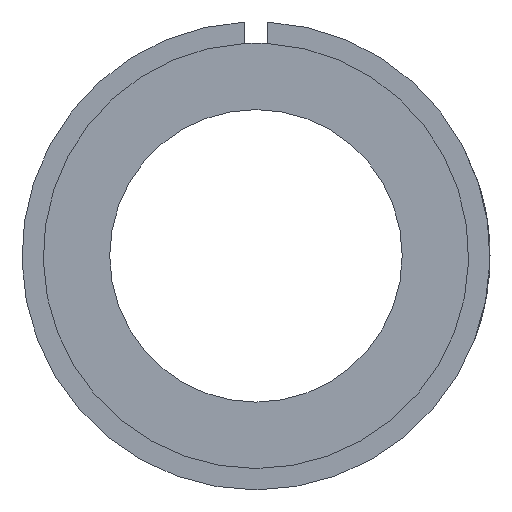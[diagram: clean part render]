
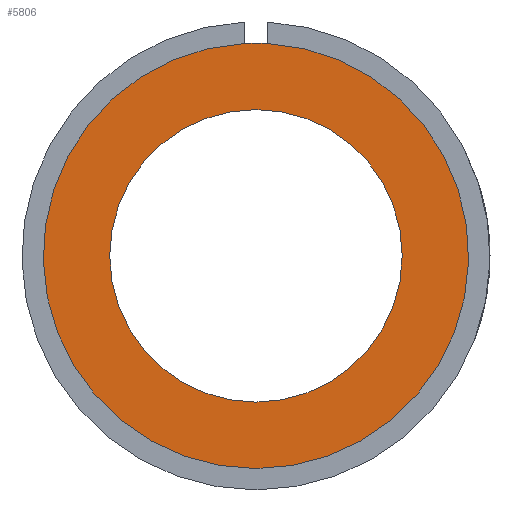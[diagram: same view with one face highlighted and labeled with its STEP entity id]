
A CAD part, left-side view. The second image highlights one B-rep face of the part: STEP entity #5806.
In plain terms, the highlighted planar face has unit normal (-1, 0, 0).
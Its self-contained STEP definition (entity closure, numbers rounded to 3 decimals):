
#131=PLANE('',#6254);
#1843=ORIENTED_EDGE('',*,*,#3596,.F.);
#1844=ORIENTED_EDGE('',*,*,#3597,.F.);
#1845=ORIENTED_EDGE('',*,*,#3561,.T.);
#3561=EDGE_CURVE('',#4444,#4444,#4842,.F.);
#3596=EDGE_CURVE('',#4467,#4468,#4855,.T.);
#3597=EDGE_CURVE('',#4468,#4467,#4856,.T.);
#4444=VERTEX_POINT('',#9090);
#4467=VERTEX_POINT('',#9161);
#4468=VERTEX_POINT('',#9162);
#4842=CIRCLE('',#6229,12.5);
#4855=CIRCLE('',#6255,18.177);
#4856=CIRCLE('',#6256,18.177);
#4990=EDGE_LOOP('',(#1843,#1844));
#4991=EDGE_LOOP('',(#1845));
#5390=FACE_BOUND('',#4990,.T.);
#5391=FACE_BOUND('',#4991,.T.);
#5806=ADVANCED_FACE('',(#5390,#5391),#131,.T.);
#6229=AXIS2_PLACEMENT_3D('',#9089,#6817,#6818);
#6254=AXIS2_PLACEMENT_3D('',#9159,#6889,#6890);
#6255=AXIS2_PLACEMENT_3D('',#9160,#6891,#6892);
#6256=AXIS2_PLACEMENT_3D('',#9163,#6893,#6894);
#6817=DIRECTION('',(-1.,0.,0.));
#6818=DIRECTION('',(0.,0.,1.));
#6889=DIRECTION('',(-1.,0.,0.));
#6890=DIRECTION('',(0.,0.,-1.));
#6891=DIRECTION('',(1.,0.,0.));
#6892=DIRECTION('',(0.,0.,-1.));
#6893=DIRECTION('',(1.,0.,0.));
#6894=DIRECTION('',(0.,0.,-1.));
#9089=CARTESIAN_POINT('',(-27.,0.,0.));
#9090=CARTESIAN_POINT('',(-27.,0.,12.5));
#9159=CARTESIAN_POINT('',(-27.,0.,0.));
#9160=CARTESIAN_POINT('',(-27.,0.,0.));
#9161=CARTESIAN_POINT('',(-27.,1.,18.15));
#9162=CARTESIAN_POINT('',(-27.,-1.,18.15));
#9163=CARTESIAN_POINT('',(-27.,0.,0.));
